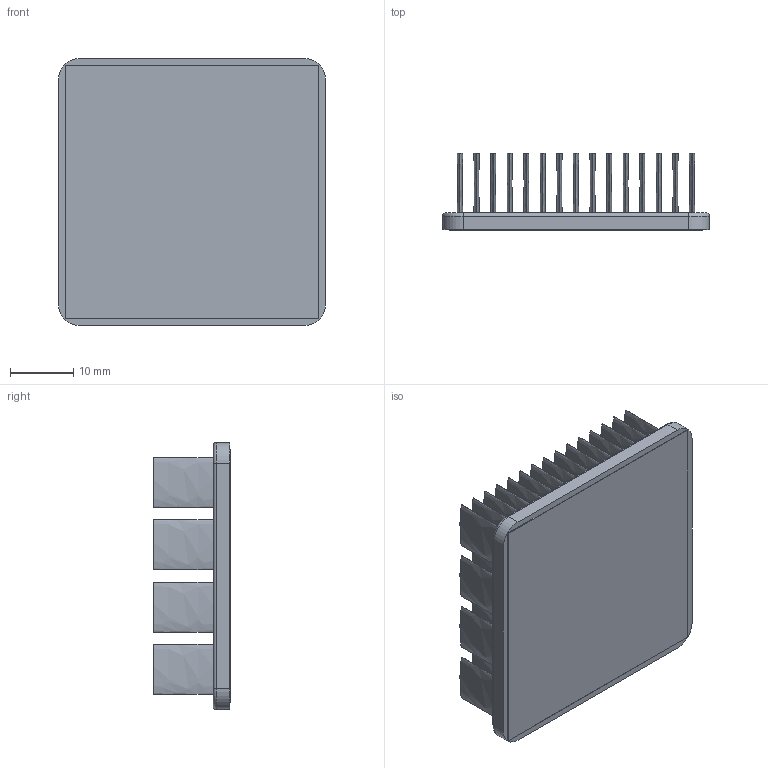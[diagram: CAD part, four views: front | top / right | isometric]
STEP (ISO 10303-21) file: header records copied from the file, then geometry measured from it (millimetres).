
FILE_DESCRIPTION (( 'STEP AP214' ), '1' );
FILE_NAME ('INM42.5001-12W-2.6.STEP', '2023-02-28T00:05:06', ( '' ), ( '' ), 'SwSTEP 2.0', 'SolidWorks 2020', '' );
FILE_SCHEMA (( 'AUTOMOTIVE_DESIGN' ));
Length unit declared in the file: inch
Products named in the file (1): INM42.5001-12W-2.6
Bounding box: 42.1 x 12.13 x 42.1 mm (x, y, z)
Volume: 7701.9 mm3; surface area: 16173.7 mm2
Topology: 2 solids, 2 shells, 204 faces, 412 edges, 272 vertices
Faces by surface type: bspline 120, plane 72, cylinder 8, torus 4
Entity records: 8275 total; most frequent: CARTESIAN_POINT 2449, ORIENTED_EDGE 824, EDGE_CURVE 412, DIRECTION 362, VERTEX_POINT 272, EDGE_LOOP 264, UNCERTAINTY_MEASURE_WITH_UNIT 208, LENGTH_MEASURE_WITH_UNIT 208
